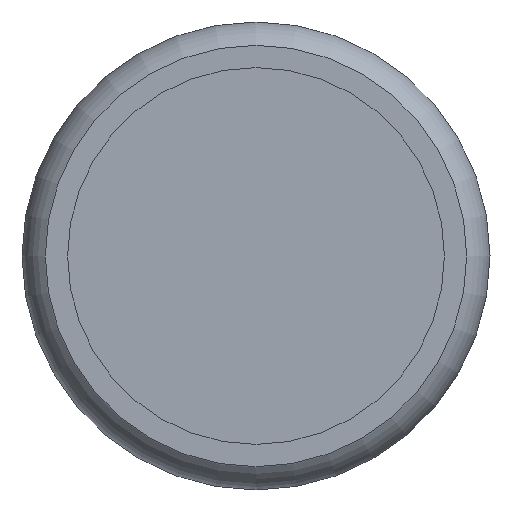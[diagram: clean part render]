
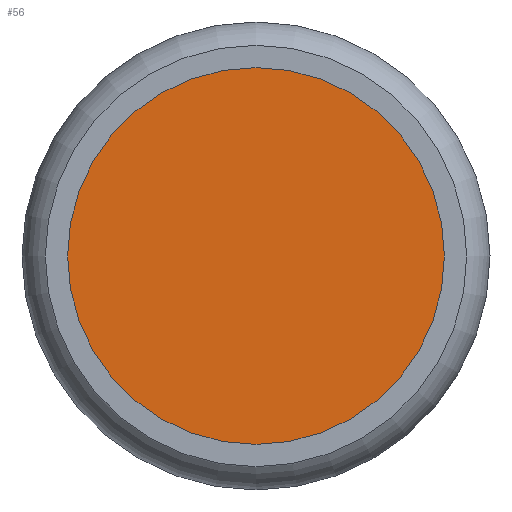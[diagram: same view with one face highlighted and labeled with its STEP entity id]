
A CAD part, front view. The second image highlights one B-rep face of the part: STEP entity #56.
In plain terms, the highlighted planar face has unit normal (0, -1, 0).
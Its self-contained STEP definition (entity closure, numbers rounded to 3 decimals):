
#56=ADVANCED_FACE('',(#93),#95,.T.);
#93=FACE_BOUND('',#94,.T.);
#94=EDGE_LOOP('',(#204));
#95=PLANE('',#96);
#96=AXIS2_PLACEMENT_3D('',#97,#98,#99);
#97=CARTESIAN_POINT('',(0.,-55.,0.));
#98=DIRECTION('',(0.,-1.,0.));
#99=DIRECTION('',(0.,0.,-1.));
#204=ORIENTED_EDGE('',*,*,#229,.T.);
#229=EDGE_CURVE('',#244,#244,#245,.T.);
#244=VERTEX_POINT('',#274);
#245=CIRCLE('',#275,12.52);
#274=CARTESIAN_POINT('',(0.,-55.,12.52));
#275=AXIS2_PLACEMENT_3D('',#276,#277,#278);
#276=CARTESIAN_POINT('',(0.,-55.,0.));
#277=DIRECTION('',(0.,-1.,0.));
#278=DIRECTION('',(0.,0.,1.));
